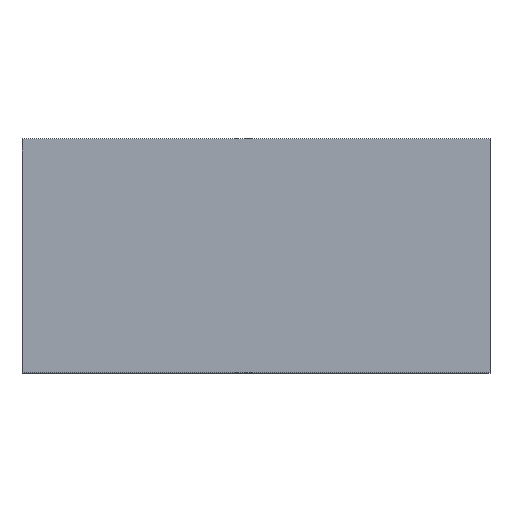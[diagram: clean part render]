
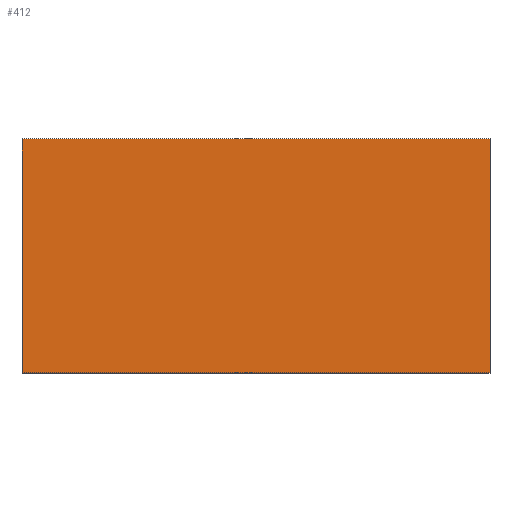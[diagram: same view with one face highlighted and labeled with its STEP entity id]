
A CAD part, top view. The second image highlights one B-rep face of the part: STEP entity #412.
In plain terms, the highlighted planar face has unit normal (0, 0, 1) as drawn and (0, 0, -1) by its records, which use the part's own axes.
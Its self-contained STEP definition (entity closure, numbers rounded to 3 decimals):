
#412=ADVANCED_FACE('',(#795),#797,.F.);
#795=FACE_BOUND('',#796,.T.);
#796=EDGE_LOOP('',(#1055,#1056,#1057,#1058));
#797=PLANE('',#798);
#798=AXIS2_PLACEMENT_3D('',#799,#800,#801);
#799=CARTESIAN_POINT('',(0.,0.,-0.025));
#800=DIRECTION('',(0.,0.,1.));
#801=DIRECTION('',(1.,0.,0.));
#1055=ORIENTED_EDGE('',*,*,#1219,.F.);
#1056=ORIENTED_EDGE('',*,*,#1216,.F.);
#1057=ORIENTED_EDGE('',*,*,#1213,.F.);
#1058=ORIENTED_EDGE('',*,*,#1209,.F.);
#1209=EDGE_CURVE('',#1352,#1353,#1354,.T.);
#1213=EDGE_CURVE('',#1353,#1360,#1361,.T.);
#1216=EDGE_CURVE('',#1360,#1365,#1366,.T.);
#1219=EDGE_CURVE('',#1365,#1352,#1370,.T.);
#1352=VERTEX_POINT('',#1633);
#1353=VERTEX_POINT('',#1634);
#1354=LINE('',#1635,#1636);
#1360=VERTEX_POINT('',#1649);
#1361=LINE('',#1650,#1651);
#1365=VERTEX_POINT('',#1660);
#1366=LINE('',#1661,#1662);
#1370=LINE('',#1671,#1672);
#1633=CARTESIAN_POINT('',(1.6,-0.8,-0.025));
#1634=CARTESIAN_POINT('',(1.6,0.8,-0.025));
#1635=CARTESIAN_POINT('',(1.6,-0.8,-0.025));
#1636=VECTOR('',#1637,1.);
#1637=DIRECTION('',(0.,1.,0.));
#1649=CARTESIAN_POINT('',(-1.6,0.8,-0.025));
#1650=CARTESIAN_POINT('',(1.6,0.8,-0.025));
#1651=VECTOR('',#1652,1.);
#1652=DIRECTION('',(-1.,0.,0.));
#1660=CARTESIAN_POINT('',(-1.6,-0.8,-0.025));
#1661=CARTESIAN_POINT('',(-1.6,0.8,-0.025));
#1662=VECTOR('',#1663,1.);
#1663=DIRECTION('',(0.,-1.,0.));
#1671=CARTESIAN_POINT('',(-1.6,-0.8,-0.025));
#1672=VECTOR('',#1673,1.);
#1673=DIRECTION('',(1.,0.,0.));
